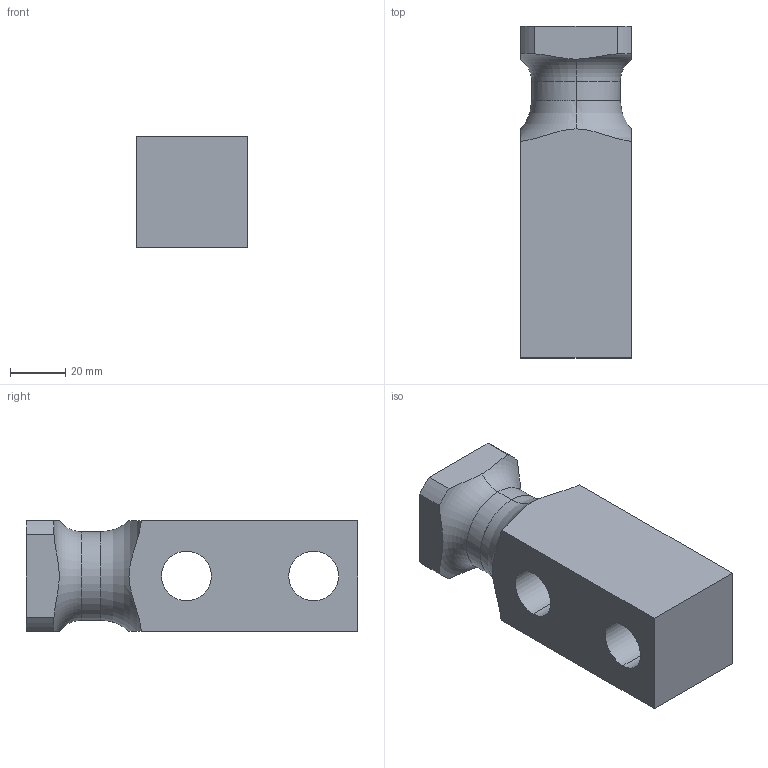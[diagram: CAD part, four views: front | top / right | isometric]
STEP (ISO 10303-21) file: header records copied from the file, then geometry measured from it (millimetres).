
FILE_DESCRIPTION(('CATIA V5 STEP Exchange'),'2;1');
FILE_NAME('C:\Users\Raffaele\Desktop\3D X SITO CF\PERNI -STAFFE SOLLEVAMENTO\395V\GSB_OILLESS_C10104040120\STEP-2.03\395V-04-040-120.stp','2019-07-03T12:30:33+00:00',('none'),('none'),'CATIA Version 5 Release 20 GA (IN-10)','CATIA V5 STEP AP203','none');
FILE_SCHEMA(('CONFIG_CONTROL_DESIGN'));
Length unit declared in the file: millimetre
Products named in the file (1): 395V-04-040-120
Bounding box: 40 x 120 x 40 mm (x, y, z)
Volume: 142808.3 mm3; surface area: 25766.4 mm2
Topology: 1 solids, 1 shells, 30 faces, 136 edges, 110 vertices
Faces by surface type: cylinder 14, plane 12, torus 4
Entity records: 1809 total; most frequent: CARTESIAN_POINT 664, ORIENTED_EDGE 272, DIRECTION 170, EDGE_CURVE 136, AXIS2_PLACEMENT_3D 111, VERTEX_POINT 110, CIRCLE 80, EDGE_LOOP 36
